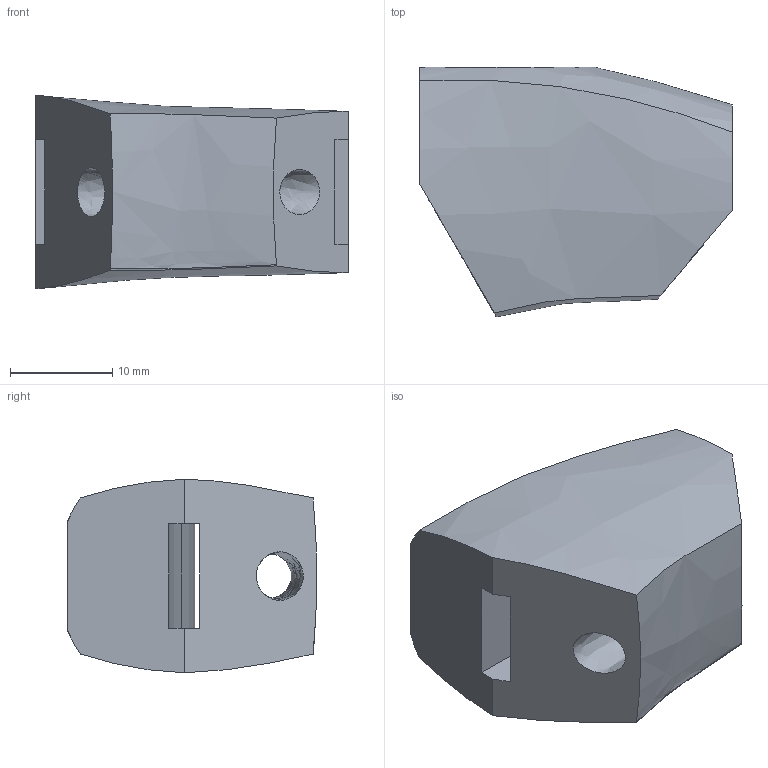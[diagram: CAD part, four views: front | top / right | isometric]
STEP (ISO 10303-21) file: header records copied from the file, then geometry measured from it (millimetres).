
FILE_DESCRIPTION(/* description */ (''),/* implementation_level */ '2;1');
FILE_NAME(/* name */ 'C:/Users/Ryan/Documents/AIO Robotics/CAD Files/FingerMiddle.step',/* time_stamp */ '2017-02-04T20:51:17-08:00',/* author */ (''),/* organization */ (''),/* preprocessor_version */ 'ST-DEVELOPER v16.5',/* originating_system */ 'Autodesk Translation Framework v5.2.0.2920',/* authorisation */ '');
FILE_SCHEMA (('AUTOMOTIVE_DESIGN { 1 0 10303 214 3 1 1 }'));
Length unit declared in the file: inch
Products named in the file (1): FingerMiddleGeneral v27
Bounding box: 30.48 x 24.37 x 18.9 mm (x, y, z)
Volume: 8326.4 mm3; surface area: 3561.3 mm2
Topology: 1 solids, 1 shells, 21 faces, 67 edges, 46 vertices
Faces by surface type: plane 11, bspline 6, cylinder 4
Entity records: 1096 total; most frequent: CARTESIAN_POINT 491, ORIENTED_EDGE 134, DIRECTION 107, EDGE_CURVE 67, VERTEX_POINT 46, AXIS2_PLACEMENT_3D 38, LINE 31, VECTOR 31
